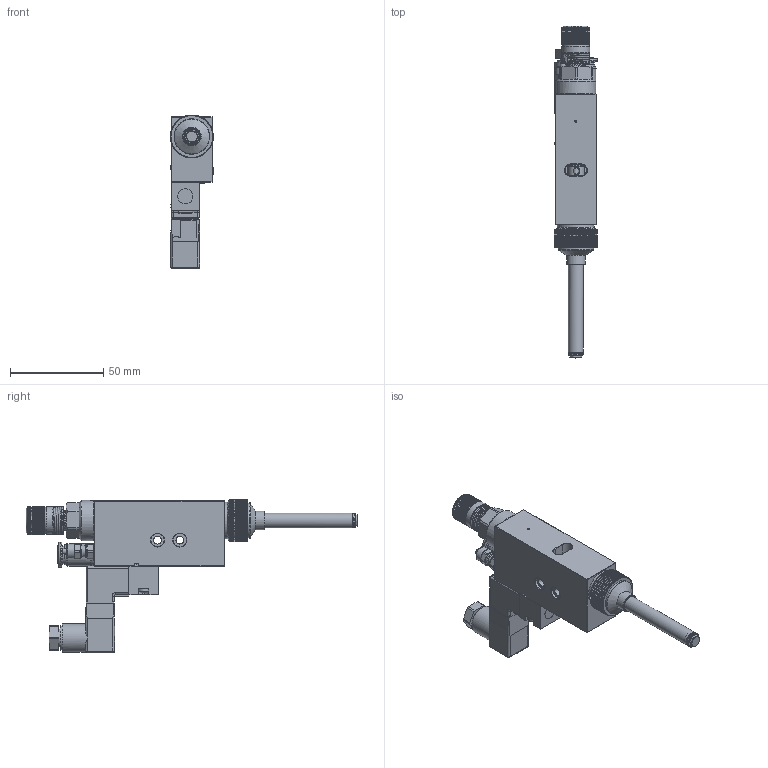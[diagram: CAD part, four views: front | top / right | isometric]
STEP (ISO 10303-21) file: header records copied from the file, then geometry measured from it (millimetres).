
FILE_DESCRIPTION (( 'STEP AP214' ), '1' );
FILE_NAME ('DAS-50N-EV-50.STEP', '2024-10-11T10:07:03', ( '' ), ( '' ), 'SwSTEP 2.0', 'SolidWorks 2024', '' );
FILE_SCHEMA (( 'AUTOMOTIVE_DESIGN' ));
Length unit declared in the file: millimetre
Products named in the file (1): DAS-50N-EV-50
Bounding box: 23.15 x 178 x 82.5 mm (x, y, z)
Volume: 84647.8 mm3; surface area: 28546.6 mm2
Topology: 2 solids, 4 shells, 1392 faces, 3672 edges, 2317 vertices
Faces by surface type: plane 549, cylinder 527, cone 282, bspline 34
Full cylindrical faces by diameter (mm): 0.5 x10, 0.8 x2, 1 x1, 1.5 x3, 2 x1, 2.5 x6, 2.7 x3, 3 x8, 3.2 x3, 3.5 x4, 3.585 x1, 4.2 x3, 4.5 x1, 5 x2, 5.15 x1, 5.5 x1, 5.6 x2, 6 x1, 7 x5, 7.1 x1, 7.169 x1, 7.5 x1, 7.8 x1, 8 x3, 8.053 x1, 8.1 x1, 8.566 x1, 8.8 x1, 8.85 x1, 9.7 x1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
Entity records: 61301 total; most frequent: CARTESIAN_POINT 30811, ORIENTED_EDGE 6842, DIRECTION 5277, EDGE_CURVE 3421, VERTEX_POINT 2221, AXIS2_PLACEMENT_3D 2001, EDGE_LOOP 1632, FACE_OUTER_BOUND 1492
